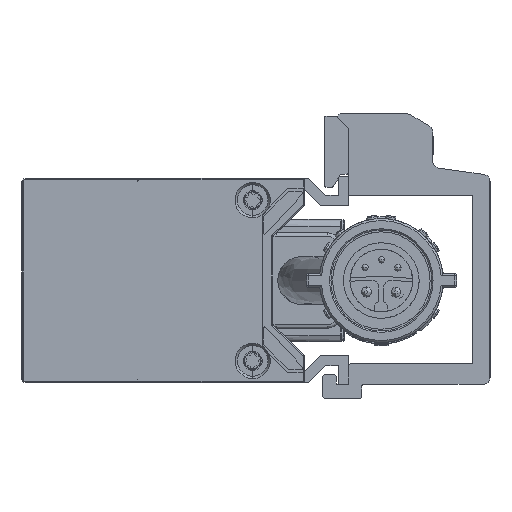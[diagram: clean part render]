
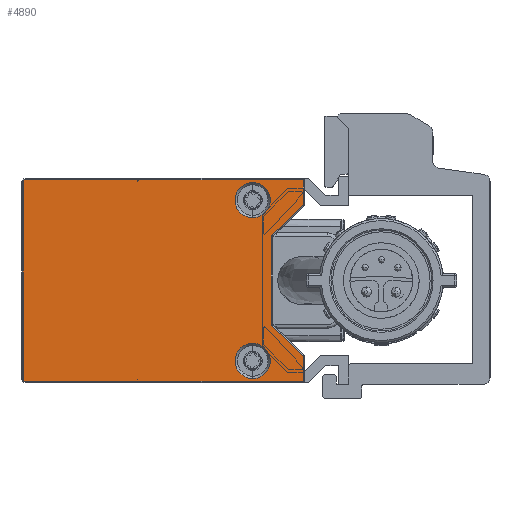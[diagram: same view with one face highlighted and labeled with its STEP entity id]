
A CAD part, left-side view. The second image highlights one B-rep face of the part: STEP entity #4890.
In plain terms, the highlighted planar face has unit normal (-1, 0, 0).
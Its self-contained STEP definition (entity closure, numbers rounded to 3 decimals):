
#605 = LINE ( 'NONE', #29934, #10699 ) ;
#969 = VERTEX_POINT ( 'NONE', #8878 ) ;
#1775 = VECTOR ( 'NONE', #47365, 1000. ) ;
#2386 = EDGE_CURVE ( 'NONE', #31209, #57411, #41728, .T. ) ;
#2875 = DIRECTION ( 'NONE',  ( -1., 0., 0. ) ) ;
#4382 = DIRECTION ( 'NONE',  ( 0., 0., -1. ) ) ;
#4683 = ORIENTED_EDGE ( 'NONE', *, *, #61057, .T. ) ;
#4890 = ADVANCED_FACE ( 'NONE', ( #62937, #37858, #43147 ), #32591, .T. ) ;
#6002 = DIRECTION ( 'NONE',  ( -1., 0., 0. ) ) ;
#6179 = DIRECTION ( 'NONE',  ( 0., 1., 0. ) ) ;
#6441 = ORIENTED_EDGE ( 'NONE', *, *, #47600, .F. ) ;
#7271 = ORIENTED_EDGE ( 'NONE', *, *, #42808, .F. ) ;
#8176 = DIRECTION ( 'NONE',  ( 0., 0., 1. ) ) ;
#8878 = CARTESIAN_POINT ( 'NONE',  ( -600., 11.399, 6.415 ) ) ;
#8990 = DIRECTION ( 'NONE',  ( 1., 0., 0. ) ) ;
#9067 = CARTESIAN_POINT ( 'NONE',  ( -600., 47.8, -14.5 ) ) ;
#9206 = DIRECTION ( 'NONE',  ( 0., 0., -1. ) ) ;
#9266 = VERTEX_POINT ( 'NONE', #41131 ) ;
#9371 = CIRCLE ( 'NONE', #12519, 2.6 ) ;
#9921 = EDGE_CURVE ( 'NONE', #25016, #61049, #60283, .T. ) ;
#10699 = VECTOR ( 'NONE', #15412, 1000. ) ;
#10914 = CARTESIAN_POINT ( 'NONE',  ( -600., 14.134, 11.8 ) ) ;
#11173 = VERTEX_POINT ( 'NONE', #48911 ) ;
#12062 = CARTESIAN_POINT ( 'NONE',  ( -600., 47.8, 14.5 ) ) ;
#12519 = AXIS2_PLACEMENT_3D ( 'NONE', #10914, #45876, #56111 ) ;
#12524 = CARTESIAN_POINT ( 'NONE',  ( -600., 6.7, 11.135 ) ) ;
#13095 = DIRECTION ( 'NONE',  ( 0., -1., 0. ) ) ;
#13252 = EDGE_LOOP ( 'NONE', ( #31148, #21470 ) ) ;
#13296 = AXIS2_PLACEMENT_3D ( 'NONE', #16204, #6002, #17170 ) ;
#14081 = AXIS2_PLACEMENT_3D ( 'NONE', #49762, #39205, #39529 ) ;
#14157 = CARTESIAN_POINT ( 'NONE',  ( -600., 14.134, -11.8 ) ) ;
#14311 = CARTESIAN_POINT ( 'NONE',  ( -600., 10.999, -6.415 ) ) ;
#14628 = DIRECTION ( 'NONE',  ( -1., 0., 0. ) ) ;
#14886 = LINE ( 'NONE', #41148, #23871 ) ;
#15222 = VERTEX_POINT ( 'NONE', #41600 ) ;
#15412 = DIRECTION ( 'NONE',  ( 0., 0., 1. ) ) ;
#15785 = DIRECTION ( 'NONE',  ( 0., 0., 1. ) ) ;
#16204 = CARTESIAN_POINT ( 'NONE',  ( -600., 14.134, -11.8 ) ) ;
#16591 = VECTOR ( 'NONE', #44160, 1000. ) ;
#16732 = EDGE_CURVE ( 'NONE', #11173, #43083, #54042, .T. ) ;
#17106 = CARTESIAN_POINT ( 'NONE',  ( -600., 6.7, 11.135 ) ) ;
#17170 = DIRECTION ( 'NONE',  ( 0., 0., 1. ) ) ;
#17880 = ORIENTED_EDGE ( 'NONE', *, *, #9921, .F. ) ;
#17937 = VERTEX_POINT ( 'NONE', #17106 ) ;
#18428 = LINE ( 'NONE', #12524, #16591 ) ;
#18444 = VERTEX_POINT ( 'NONE', #46536 ) ;
#18668 = EDGE_CURVE ( 'NONE', #15222, #18444, #35595, .T. ) ;
#19121 = CARTESIAN_POINT ( 'NONE',  ( -600., 10.999, 6.415 ) ) ;
#19446 = DIRECTION ( 'NONE',  ( -1., 0., 0. ) ) ;
#19502 = CARTESIAN_POINT ( 'NONE',  ( -600., 47.5, -14.5 ) ) ;
#19665 = EDGE_CURVE ( 'NONE', #17937, #40285, #605, .T. ) ;
#20291 = ORIENTED_EDGE ( 'NONE', *, *, #62095, .T. ) ;
#21470 = ORIENTED_EDGE ( 'NONE', *, *, #28182, .F. ) ;
#22033 = DIRECTION ( 'NONE',  ( 0., -0.718, -0.696 ) ) ;
#22973 = DIRECTION ( 'NONE',  ( 0., 0., 1. ) ) ;
#23021 = ORIENTED_EDGE ( 'NONE', *, *, #18668, .T. ) ;
#23407 = AXIS2_PLACEMENT_3D ( 'NONE', #54018, #23684, #8176 ) ;
#23454 = ORIENTED_EDGE ( 'NONE', *, *, #61976, .F. ) ;
#23684 = DIRECTION ( 'NONE',  ( -1., 0., 0. ) ) ;
#23776 = CARTESIAN_POINT ( 'NONE',  ( -600., 6.7, 14.8 ) ) ;
#23871 = VECTOR ( 'NONE', #6179, 1000. ) ;
#24131 = VERTEX_POINT ( 'NONE', #9067 ) ;
#24734 = EDGE_CURVE ( 'NONE', #9266, #24131, #52293, .T. ) ;
#25016 = VERTEX_POINT ( 'NONE', #31785 ) ;
#26232 = ORIENTED_EDGE ( 'NONE', *, *, #19665, .T. ) ;
#27589 = CARTESIAN_POINT ( 'NONE',  ( -600., 14.134, 11.8 ) ) ;
#28182 = EDGE_CURVE ( 'NONE', #43083, #11173, #9371, .T. ) ;
#29481 = VECTOR ( 'NONE', #15785, 1000. ) ;
#29934 = CARTESIAN_POINT ( 'NONE',  ( -600., 6.7, 11.135 ) ) ;
#30568 = ORIENTED_EDGE ( 'NONE', *, *, #38800, .F. ) ;
#31148 = ORIENTED_EDGE ( 'NONE', *, *, #16732, .F. ) ;
#31209 = VERTEX_POINT ( 'NONE', #53017 ) ;
#31288 = CARTESIAN_POINT ( 'NONE',  ( -600., 11.278, -6.703 ) ) ;
#31785 = CARTESIAN_POINT ( 'NONE',  ( -600., 11.399, -6.415 ) ) ;
#31791 = AXIS2_PLACEMENT_3D ( 'NONE', #14311, #14628, #49249 ) ;
#31898 = CARTESIAN_POINT ( 'NONE',  ( -600., 11.278, -6.703 ) ) ;
#32591 = PLANE ( 'NONE',  #23407 ) ;
#33233 = ORIENTED_EDGE ( 'NONE', *, *, #24734, .T. ) ;
#34191 = ORIENTED_EDGE ( 'NONE', *, *, #40273, .F. ) ;
#34304 = AXIS2_PLACEMENT_3D ( 'NONE', #19121, #19446, #43570 ) ;
#34602 = DIRECTION ( 'NONE',  ( -1., 0., 0. ) ) ;
#34707 = ORIENTED_EDGE ( 'NONE', *, *, #54943, .F. ) ;
#35595 = LINE ( 'NONE', #39898, #29481 ) ;
#37224 = AXIS2_PLACEMENT_3D ( 'NONE', #14157, #34602, #9206 ) ;
#37858 = FACE_BOUND ( 'NONE', #13252, .T. ) ;
#38306 = CARTESIAN_POINT ( 'NONE',  ( -600., 47.5, 14.8 ) ) ;
#38800 = EDGE_CURVE ( 'NONE', #9266, #57618, #40401, .T. ) ;
#39205 = DIRECTION ( 'NONE',  ( 1., 0., 0. ) ) ;
#39529 = DIRECTION ( 'NONE',  ( 0., 1., 0. ) ) ;
#39759 = CARTESIAN_POINT ( 'NONE',  ( -600., 47.5, -14.8 ) ) ;
#39898 = CARTESIAN_POINT ( 'NONE',  ( -600., 6.7, -14.8 ) ) ;
#40273 = EDGE_CURVE ( 'NONE', #44881, #969, #62727, .T. ) ;
#40285 = VERTEX_POINT ( 'NONE', #23776 ) ;
#40401 = CIRCLE ( 'NONE', #14081, 0.3 ) ;
#40838 = CIRCLE ( 'NONE', #46101, 0.3 ) ;
#41131 = CARTESIAN_POINT ( 'NONE',  ( -600., 47.8, 14.5 ) ) ;
#41148 = CARTESIAN_POINT ( 'NONE',  ( -600., 6.7, 14.8 ) ) ;
#41478 = CARTESIAN_POINT ( 'NONE',  ( -600., 14.134, 9.2 ) ) ;
#41600 = CARTESIAN_POINT ( 'NONE',  ( -600., 6.7, -14.8 ) ) ;
#41728 = CIRCLE ( 'NONE', #13296, 2.6 ) ;
#42808 = EDGE_CURVE ( 'NONE', #57411, #31209, #58347, .T. ) ;
#43083 = VERTEX_POINT ( 'NONE', #41478 ) ;
#43147 = FACE_OUTER_BOUND ( 'NONE', #51630, .T. ) ;
#43570 = DIRECTION ( 'NONE',  ( 0., 0.696, 0.718 ) ) ;
#43837 = DIRECTION ( 'NONE',  ( 0., 0., 1. ) ) ;
#44160 = DIRECTION ( 'NONE',  ( 0., 0.718, -0.696 ) ) ;
#44881 = VERTEX_POINT ( 'NONE', #61996 ) ;
#44911 = EDGE_LOOP ( 'NONE', ( #59134, #7271 ) ) ;
#45876 = DIRECTION ( 'NONE',  ( -1., 0., 0. ) ) ;
#46101 = AXIS2_PLACEMENT_3D ( 'NONE', #19502, #8990, #4382 ) ;
#46536 = CARTESIAN_POINT ( 'NONE',  ( -600., 6.7, -11.135 ) ) ;
#46805 = ORIENTED_EDGE ( 'NONE', *, *, #60979, .T. ) ;
#47365 = DIRECTION ( 'NONE',  ( 0., 0., -1. ) ) ;
#47600 = EDGE_CURVE ( 'NONE', #61049, #18444, #62598, .T. ) ;
#48144 = CARTESIAN_POINT ( 'NONE',  ( -600., 11.399, -6.415 ) ) ;
#48911 = CARTESIAN_POINT ( 'NONE',  ( -600., 14.134, 14.4 ) ) ;
#49249 = DIRECTION ( 'NONE',  ( 0., 1., 0. ) ) ;
#49762 = CARTESIAN_POINT ( 'NONE',  ( -600., 47.5, 14.5 ) ) ;
#49954 = VERTEX_POINT ( 'NONE', #39759 ) ;
#51630 = EDGE_LOOP ( 'NONE', ( #26232, #46805, #30568, #33233, #34707, #4683, #23021, #6441, #17880, #20291, #34191, #23454 ) ) ;
#52293 = LINE ( 'NONE', #12062, #1775 ) ;
#53017 = CARTESIAN_POINT ( 'NONE',  ( -600., 14.134, -9.2 ) ) ;
#53500 = VECTOR ( 'NONE', #43837, 1000. ) ;
#54018 = CARTESIAN_POINT ( 'NONE',  ( -600., 11.199, 0. ) ) ;
#54042 = CIRCLE ( 'NONE', #61417, 2.6 ) ;
#54943 = EDGE_CURVE ( 'NONE', #49954, #24131, #40838, .T. ) ;
#55481 = VECTOR ( 'NONE', #13095, 1000. ) ;
#56111 = DIRECTION ( 'NONE',  ( 0., 0., -1. ) ) ;
#57294 = LINE ( 'NONE', #62561, #55481 ) ;
#57411 = VERTEX_POINT ( 'NONE', #61099 ) ;
#57618 = VERTEX_POINT ( 'NONE', #38306 ) ;
#58347 = CIRCLE ( 'NONE', #37224, 2.6 ) ;
#59134 = ORIENTED_EDGE ( 'NONE', *, *, #2386, .F. ) ;
#60283 = CIRCLE ( 'NONE', #31791, 0.4 ) ;
#60979 = EDGE_CURVE ( 'NONE', #40285, #57618, #14886, .T. ) ;
#61049 = VERTEX_POINT ( 'NONE', #31898 ) ;
#61057 = EDGE_CURVE ( 'NONE', #49954, #15222, #57294, .T. ) ;
#61099 = CARTESIAN_POINT ( 'NONE',  ( -600., 14.134, -14.4 ) ) ;
#61417 = AXIS2_PLACEMENT_3D ( 'NONE', #27589, #2875, #22973 ) ;
#61976 = EDGE_CURVE ( 'NONE', #17937, #44881, #18428, .T. ) ;
#61996 = CARTESIAN_POINT ( 'NONE',  ( -600., 11.278, 6.703 ) ) ;
#62095 = EDGE_CURVE ( 'NONE', #25016, #969, #63949, .T. ) ;
#62561 = CARTESIAN_POINT ( 'NONE',  ( -600., 47.5, -14.8 ) ) ;
#62598 = LINE ( 'NONE', #31288, #64146 ) ;
#62727 = CIRCLE ( 'NONE', #34304, 0.4 ) ;
#62937 = FACE_BOUND ( 'NONE', #44911, .T. ) ;
#63949 = LINE ( 'NONE', #48144, #53500 ) ;
#64146 = VECTOR ( 'NONE', #22033, 1000. ) ;
